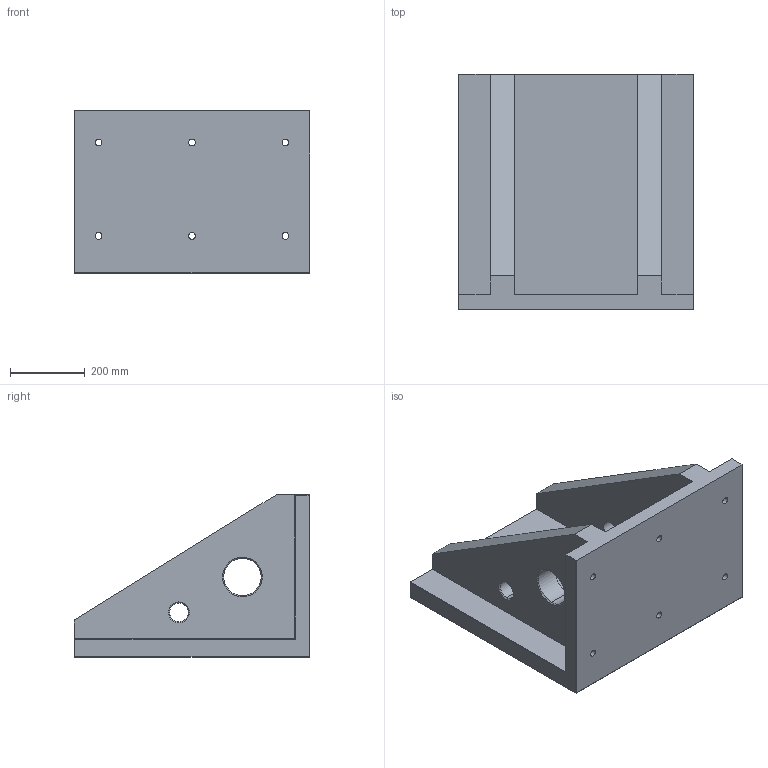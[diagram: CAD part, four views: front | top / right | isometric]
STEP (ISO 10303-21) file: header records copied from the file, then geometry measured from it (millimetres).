
FILE_DESCRIPTION((''),'2;1');
FILE_NAME('FG_WH_ANGPL_ANG16NP003','2026-05-22T12:43:55',('Admin'),(''),'CREO PARAMETRIC BY PTC INC, 2025010','CREO PARAMETRIC BY PTC INC, 2025010','');
FILE_SCHEMA(('CONFIG_CONTROL_DESIGN'));
Length unit declared in the file: millimetre
Products named in the file (1): FG_WH_ANGPL_ANG16NP003
Bounding box: 630 x 630 x 435 mm (x, y, z)
Volume: 45043077.5 mm3; surface area: 2352326.2 mm2
Topology: 1 solids, 133 shells, 1397 faces, 3361 edges, 2104 vertices
Faces by surface type: cylinder 824, plane 301, cone 272
Entity records: 39486 total; most frequent: DIRECTION 7813, CARTESIAN_POINT 6599, ORIENTED_EDGE 5666, AXIS2_PLACEMENT_3D 3318, EDGE_CURVE 3097, VERTEX_POINT 2104, CIRCLE 1920, EDGE_LOOP 1819
